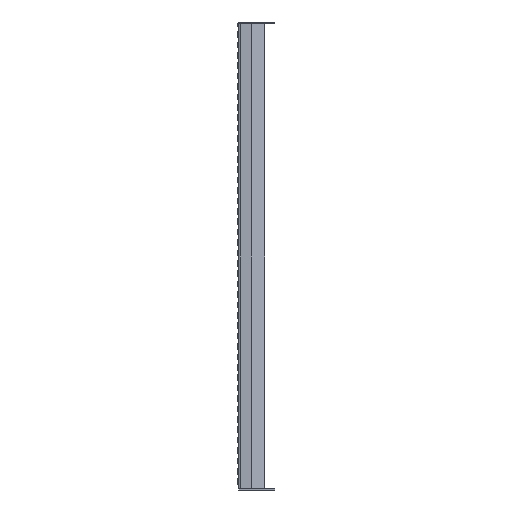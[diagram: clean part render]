
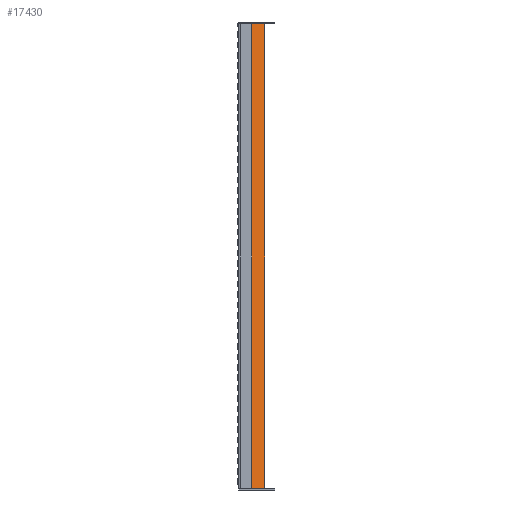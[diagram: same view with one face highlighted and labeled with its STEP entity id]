
A CAD part, left-side view. The second image highlights one B-rep face of the part: STEP entity #17430.
In plain terms, the highlighted planar face has unit normal (-0.94, -0.342, 0).
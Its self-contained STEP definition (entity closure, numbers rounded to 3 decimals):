
#2115=FACE_OUTER_BOUND('',#3368,.T.);
#3368=EDGE_LOOP('',(#14061,#14062,#14063,#14064));
#4539=LINE('',#30594,#6391);
#4558=LINE('',#30641,#6410);
#4560=LINE('',#30647,#6412);
#4564=LINE('',#30654,#6416);
#6391=VECTOR('',#22277,10.);
#6410=VECTOR('',#22320,10.);
#6412=VECTOR('',#22326,10.);
#6416=VECTOR('',#22334,10.);
#8352=VERTEX_POINT('',#30591);
#8353=VERTEX_POINT('',#30593);
#8369=VERTEX_POINT('',#30640);
#8371=VERTEX_POINT('',#30646);
#10356=EDGE_CURVE('',#8353,#8352,#4539,.T.);
#10380=EDGE_CURVE('',#8352,#8369,#4558,.T.);
#10383=EDGE_CURVE('',#8371,#8353,#4560,.T.);
#10387=EDGE_CURVE('',#8369,#8371,#4564,.T.);
#14061=ORIENTED_EDGE('',*,*,#10380,.T.);
#14062=ORIENTED_EDGE('',*,*,#10387,.T.);
#14063=ORIENTED_EDGE('',*,*,#10383,.T.);
#14064=ORIENTED_EDGE('',*,*,#10356,.T.);
#16365=PLANE('',#18986);
#17430=ADVANCED_FACE('',(#2115),#16365,.T.);
#18986=AXIS2_PLACEMENT_3D('',#30653,#22332,#22333);
#22277=DIRECTION('',(-0.342,0.94,0.));
#22320=DIRECTION('',(0.,0.,-1.));
#22326=DIRECTION('',(0.,0.,1.));
#22332=DIRECTION('center_axis',(-0.94,-0.342,0.));
#22333=DIRECTION('ref_axis',(0.,0.,1.));
#22334=DIRECTION('',(0.342,-0.94,0.));
#30591=CARTESIAN_POINT('',(0.196,-25.539,894.));
#30593=CARTESIAN_POINT('',(9.099,-50.,894.));
#30594=CARTESIAN_POINT('',(0.,-25.,894.));
#30640=CARTESIAN_POINT('',(0.196,-25.539,0.));
#30641=CARTESIAN_POINT('',(0.196,-25.539,0.));
#30646=CARTESIAN_POINT('',(9.099,-50.,0.));
#30647=CARTESIAN_POINT('',(9.099,-50.,0.));
#30653=CARTESIAN_POINT('Origin',(9.099,-50.,0.));
#30654=CARTESIAN_POINT('',(0.,-25.,0.));
